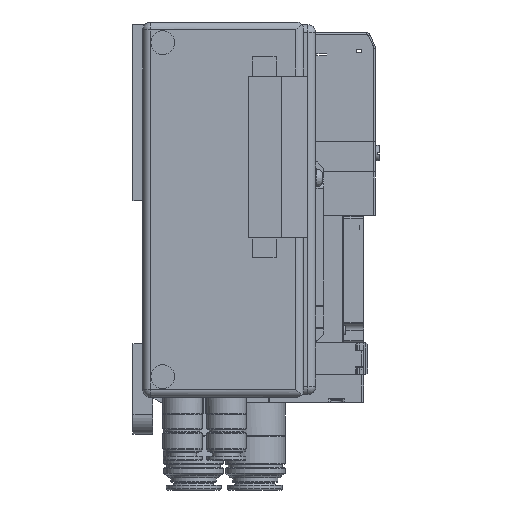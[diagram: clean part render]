
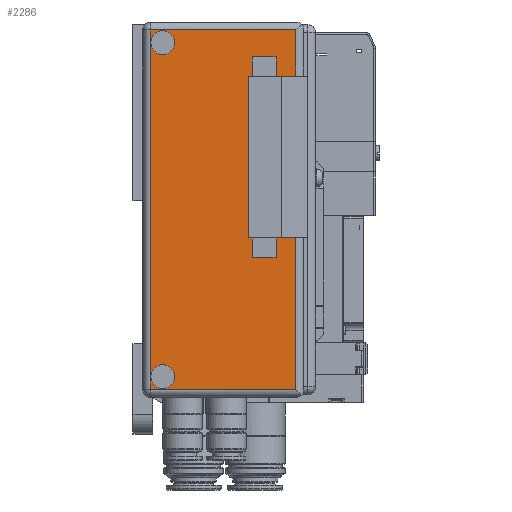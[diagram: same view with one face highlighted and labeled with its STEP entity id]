
A CAD part, left-side view. The second image highlights one B-rep face of the part: STEP entity #2286.
In plain terms, the highlighted planar face has unit normal (-1, 0, 0).
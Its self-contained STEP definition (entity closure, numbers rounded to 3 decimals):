
#2286=ADVANCED_FACE('',(#16781,#16782),#16780,.F.);
#16780=PLANE('',#26197);
#16781=FACE_OUTER_BOUND('',#26198,.T.);
#16782=FACE_BOUND('',#26199,.T.);
#26194=CARTESIAN_POINT('',(0.,-42.15,103.835));
#26195=DIRECTION('',(1.,0.,0.));
#26196=DIRECTION('',(0.,0.,-1.));
#26197=AXIS2_PLACEMENT_3D('',#26194,#26195,#26196);
#26198=EDGE_LOOP('',(#33867,#33868,#33869,#33870,#33871,#33872,#33873,#33874,#33875,#33876,#33877,#33878));
#26199=EDGE_LOOP('',(#33879,#33880,#33881,#33882,#33883,#33884,#33885,#33886));
#33867=ORIENTED_EDGE('',*,*,#37809,.T.);
#33868=ORIENTED_EDGE('',*,*,#37810,.T.);
#33869=ORIENTED_EDGE('',*,*,#37811,.T.);
#33870=ORIENTED_EDGE('',*,*,#37812,.T.);
#33871=ORIENTED_EDGE('',*,*,#37813,.F.);
#33872=ORIENTED_EDGE('',*,*,#37814,.F.);
#33873=ORIENTED_EDGE('',*,*,#37815,.F.);
#33874=ORIENTED_EDGE('',*,*,#37816,.T.);
#33875=ORIENTED_EDGE('',*,*,#37817,.F.);
#33876=ORIENTED_EDGE('',*,*,#37818,.F.);
#33877=ORIENTED_EDGE('',*,*,#37819,.F.);
#33878=ORIENTED_EDGE('',*,*,#37820,.T.);
#33879=ORIENTED_EDGE('',*,*,#37821,.F.);
#33880=ORIENTED_EDGE('',*,*,#37822,.T.);
#33881=ORIENTED_EDGE('',*,*,#37823,.T.);
#33882=ORIENTED_EDGE('',*,*,#37824,.T.);
#33883=ORIENTED_EDGE('',*,*,#37825,.F.);
#33884=ORIENTED_EDGE('',*,*,#37826,.T.);
#33885=ORIENTED_EDGE('',*,*,#37827,.T.);
#33886=ORIENTED_EDGE('',*,*,#37828,.F.);
#37809=EDGE_CURVE('',#62984,#62985,#62986,.T.);
#37810=EDGE_CURVE('',#62985,#62992,#62993,.T.);
#37811=EDGE_CURVE('',#62992,#62999,#63000,.T.);
#37812=EDGE_CURVE('',#62999,#63006,#63007,.T.);
#37813=EDGE_CURVE('',#63013,#63006,#63014,.T.);
#37814=EDGE_CURVE('',#63020,#63013,#63021,.T.);
#37815=EDGE_CURVE('',#63006,#63020,#63027,.T.);
#37816=EDGE_CURVE('',#63006,#63033,#63034,.T.);
#37817=EDGE_CURVE('',#63040,#63033,#63041,.T.);
#37818=EDGE_CURVE('',#63047,#63040,#63048,.T.);
#37819=EDGE_CURVE('',#63033,#63047,#63054,.T.);
#37820=EDGE_CURVE('',#63033,#62984,#63060,.T.);
#37821=EDGE_CURVE('',#63066,#63067,#63068,.T.);
#37822=EDGE_CURVE('',#63066,#63074,#63075,.T.);
#37823=EDGE_CURVE('',#63074,#63081,#63082,.T.);
#37824=EDGE_CURVE('',#63081,#63088,#63089,.T.);
#37825=EDGE_CURVE('',#63095,#63088,#63096,.T.);
#37826=EDGE_CURVE('',#63095,#63102,#63103,.T.);
#37827=EDGE_CURVE('',#63102,#63109,#63110,.T.);
#37828=EDGE_CURVE('',#63067,#63109,#63116,.T.);
#62984=VERTEX_POINT('',#77757);
#62985=VERTEX_POINT('',#77758);
#62986=LINE('',#77759,#77760);
#62992=VERTEX_POINT('',#77762);
#62993=LINE('',#77763,#77764);
#62999=VERTEX_POINT('',#77766);
#63000=LINE('',#77767,#77768);
#63006=VERTEX_POINT('',#77770);
#63007=LINE('',#77771,#77772);
#63013=VERTEX_POINT('',#77774);
#63014=CIRCLE('',#77778,3.);
#63020=VERTEX_POINT('',#77779);
#63021=CIRCLE('',#77783,3.);
#63027=CIRCLE('',#77787,3.);
#63033=VERTEX_POINT('',#77788);
#63034=LINE('',#77789,#77790);
#63040=VERTEX_POINT('',#77792);
#63041=CIRCLE('',#77796,3.);
#63047=VERTEX_POINT('',#77797);
#63048=CIRCLE('',#77801,3.);
#63054=CIRCLE('',#77805,3.);
#63060=LINE('',#77806,#77807);
#63066=VERTEX_POINT('',#77809);
#63067=VERTEX_POINT('',#77810);
#63068=LINE('',#77811,#77812);
#63074=VERTEX_POINT('',#77814);
#63075=LINE('',#77815,#77816);
#63081=VERTEX_POINT('',#77818);
#63082=LINE('',#77819,#77820);
#63088=VERTEX_POINT('',#77822);
#63089=LINE('',#77823,#77824);
#63095=VERTEX_POINT('',#77826);
#63096=LINE('',#77827,#77828);
#63102=VERTEX_POINT('',#77830);
#63103=LINE('',#77831,#77832);
#63109=VERTEX_POINT('',#77834);
#63110=LINE('',#77835,#77836);
#63116=LINE('',#77838,#77839);
#77757=CARTESIAN_POINT('',(0.,-2.,2.));
#77758=CARTESIAN_POINT('',(0.,-38.5,2.));
#77759=CARTESIAN_POINT('',(0.,-2.,2.));
#77760=VECTOR('',#77761,36.5);
#77761=DIRECTION('',(0.,-1.,0.));
#77762=CARTESIAN_POINT('',(0.,-38.5,92.4));
#77763=CARTESIAN_POINT('',(0.,-38.5,2.));
#77764=VECTOR('',#77765,90.4);
#77765=DIRECTION('',(0.,0.,1.));
#77766=CARTESIAN_POINT('',(0.,-2.,92.4));
#77767=CARTESIAN_POINT('',(0.,-38.5,92.4));
#77768=VECTOR('',#77769,36.5);
#77769=DIRECTION('',(0.,1.,0.));
#77770=CARTESIAN_POINT('',(0.,-2.,89.2));
#77771=CARTESIAN_POINT('',(0.,-2.,92.4));
#77772=VECTOR('',#77773,3.2);
#77773=DIRECTION('',(0.,0.,-1.));
#77774=CARTESIAN_POINT('',(0.,-5.,92.2));
#77775=CARTESIAN_POINT('',(0.,-5.,89.2));
#77776=DIRECTION('',(-1.,0.,0.));
#77777=DIRECTION('',(0.,1.,0.));
#77778=AXIS2_PLACEMENT_3D('',#77775,#77776,#77777);
#77779=CARTESIAN_POINT('',(0.,-5.,86.2));
#77780=CARTESIAN_POINT('',(0.,-5.,89.2));
#77781=DIRECTION('',(-1.,0.,0.));
#77782=DIRECTION('',(0.,1.,0.));
#77783=AXIS2_PLACEMENT_3D('',#77780,#77781,#77782);
#77784=CARTESIAN_POINT('',(0.,-5.,89.2));
#77785=DIRECTION('',(-1.,0.,0.));
#77786=DIRECTION('',(0.,1.,0.));
#77787=AXIS2_PLACEMENT_3D('',#77784,#77785,#77786);
#77788=CARTESIAN_POINT('',(0.,-2.,5.2));
#77789=CARTESIAN_POINT('',(0.,-2.,89.2));
#77790=VECTOR('',#77791,84.);
#77791=DIRECTION('',(0.,0.,-1.));
#77792=CARTESIAN_POINT('',(0.,-5.,8.2));
#77793=CARTESIAN_POINT('',(0.,-5.,5.2));
#77794=DIRECTION('',(-1.,0.,0.));
#77795=DIRECTION('',(0.,1.,0.));
#77796=AXIS2_PLACEMENT_3D('',#77793,#77794,#77795);
#77797=CARTESIAN_POINT('',(0.,-5.,2.2));
#77798=CARTESIAN_POINT('',(0.,-5.,5.2));
#77799=DIRECTION('',(-1.,0.,0.));
#77800=DIRECTION('',(0.,1.,0.));
#77801=AXIS2_PLACEMENT_3D('',#77798,#77799,#77800);
#77802=CARTESIAN_POINT('',(0.,-5.,5.2));
#77803=DIRECTION('',(-1.,0.,0.));
#77804=DIRECTION('',(0.,1.,0.));
#77805=AXIS2_PLACEMENT_3D('',#77802,#77803,#77804);
#77806=CARTESIAN_POINT('',(0.,-2.,5.2));
#77807=VECTOR('',#77808,3.2);
#77808=DIRECTION('',(0.,0.,-1.));
#77809=CARTESIAN_POINT('',(0.,-33.5,85.62));
#77810=CARTESIAN_POINT('',(0.,-27.5,85.62));
#77811=CARTESIAN_POINT('',(0.,-33.5,85.62));
#77812=VECTOR('',#77813,6.);
#77813=DIRECTION('',(0.,1.,0.));
#77814=CARTESIAN_POINT('',(0.,-33.5,80.72));
#77815=CARTESIAN_POINT('',(0.,-33.5,85.62));
#77816=VECTOR('',#77817,4.9);
#77817=DIRECTION('',(0.,0.,-1.));
#77818=CARTESIAN_POINT('',(0.,-37.,80.72));
#77819=CARTESIAN_POINT('',(0.,-33.5,80.72));
#77820=VECTOR('',#77821,3.5);
#77821=DIRECTION('',(0.,-1.,0.));
#77822=CARTESIAN_POINT('',(0.,-37.,40.08));
#77823=CARTESIAN_POINT('',(0.,-37.,80.72));
#77824=VECTOR('',#77825,40.64);
#77825=DIRECTION('',(0.,0.,-1.));
#77826=CARTESIAN_POINT('',(0.,-33.5,40.08));
#77827=CARTESIAN_POINT('',(0.,-33.5,40.08));
#77828=VECTOR('',#77829,3.5);
#77829=DIRECTION('',(0.,-1.,0.));
#77830=CARTESIAN_POINT('',(0.,-33.5,35.18));
#77831=CARTESIAN_POINT('',(0.,-33.5,40.08));
#77832=VECTOR('',#77833,4.9);
#77833=DIRECTION('',(0.,0.,-1.));
#77834=CARTESIAN_POINT('',(0.,-27.5,35.18));
#77835=CARTESIAN_POINT('',(0.,-33.5,35.18));
#77836=VECTOR('',#77837,6.);
#77837=DIRECTION('',(0.,1.,0.));
#77838=CARTESIAN_POINT('',(0.,-27.5,85.62));
#77839=VECTOR('',#77840,50.44);
#77840=DIRECTION('',(0.,0.,-1.));
